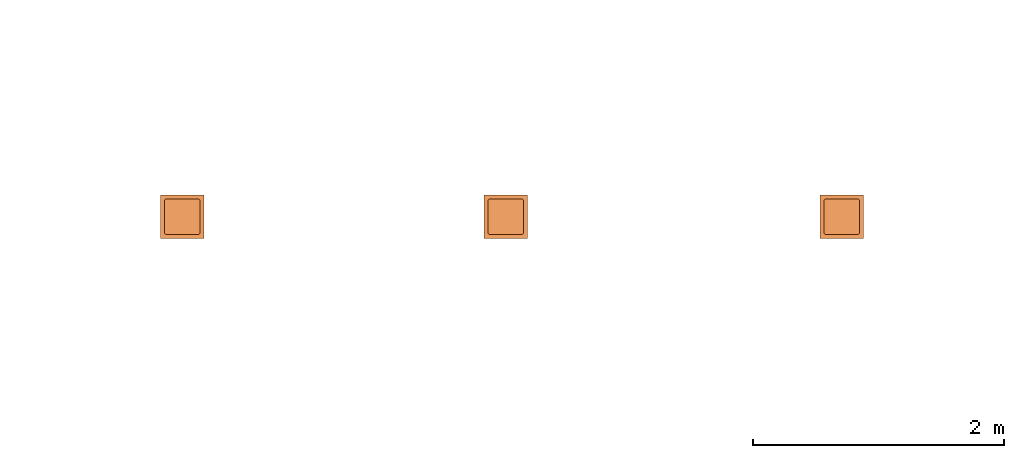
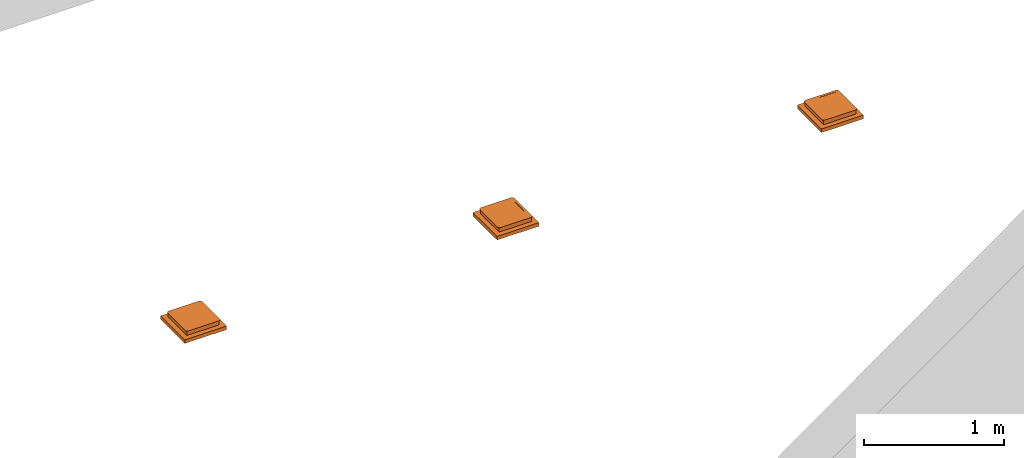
# One storey, part 71 of 197: 3 proxies.
"""IFC2X3 building model written with IfcOpenShell, lengths in metres."""

from ifc_helpers import new_model, entity, si_unit, converted_unit, direction, frame, frame_2d, origin, place, context, subcontext, project, spatial, polyline, circle_curve, parameter, trimmed, segment, composite_curve, rectangle, outline, extrude, source, transform, mapped, material, material_list, type_object, type_shapes, element, save


model = new_model("IFC2X3")

# Units and contexts
model_context = context("Model", 3, precision=1e-05, world=origin(), true_north=direction((6.123031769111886e-17, 1.0)))
body_context = subcontext(model_context, "Body", "Model", "MODEL_VIEW")
ifc_project = project(units=[si_unit("LENGTHUNIT", "METRE"), converted_unit("PLANEANGLEUNIT", "DEGREE", entity("IfcPlaneAngleMeasure", 0.017453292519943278), si_unit("PLANEANGLEUNIT", "RADIAN"), dimensions=[0, 0, 0, 0, 0, 0, 0]), si_unit("AREAUNIT", "SQUARE_METRE")], contexts=[model_context])

# Site, building, storey
site_placement = place(None, origin())
site = spatial("IfcSite", under=ifc_project, at=site_placement, Name="Default", CompositionType="ELEMENT")
building_placement = place(site_placement, origin())
building = spatial("IfcBuilding", under=site, at=building_placement, CompositionType="ELEMENT")
storey_placement = place(building_placement, origin())
storey = spatial("IfcBuildingStorey", under=building, at=storey_placement, Name="Niveau 0", CompositionType="ELEMENT", Elevation=0.0)

# Proxies
ifc_material_1 = material(Name="<Unnamed>")
ifc_material_2 = material(Name="Legrand - Inox")
ifc_material_list = material_list([ifc_material_1, ifc_material_2])
building_element_proxy_type_1 = type_object("IfcBuildingElementProxyType", Name="Boitier sol 3x4 modules:3PCN+3PCO+3RJ+1HDMI+1USB", PredefinedType="NOTDEFINED", material=ifc_material_list)
shared_shape_1 = source(origin(), body_context, "Body", "SweptSolid", [
    extrude(rectangle(XDim=0.34600000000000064, YDim=0.3460000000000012, at=frame_2d((0.0, 1.3877787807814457e-17), x_axis=(1.0, 0.0))), frame((0.0, 0.0, -0.07030000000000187), z_axis=(0.0, 0.0, 1.0), x_axis=(-1.0, 0.0, 0.0)), (0.0, 0.0, 1.0), 0.03150000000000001),
    extrude(rectangle(XDim=0.266000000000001, YDim=0.26600000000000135, at=frame_2d((1.3877787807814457e-17, 0.0), x_axis=(1.0, 0.0))), frame((0.0, 0.0, -0.03880000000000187), z_axis=(0.0, 0.0, 1.0), x_axis=(-1.0, 0.0, 0.0)), (0.0, 0.0, 1.0), 0.03880000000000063),
    extrude(outline(composite_curve([segment(polyline([(-0.12219999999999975, -0.143), (0.12220000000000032, -0.143)]), True, "CONTINUOUS"), segment(trimmed(circle_curve(frame_2d((0.12220000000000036, -0.12219999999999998), x_axis=(-1.0, 0.0)), 0.0208), [parameter(89.99999999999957)], [parameter(179.99999999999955)], True, "PARAMETER"), True, "CONTINUOUS"), segment(polyline([(0.14300000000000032, -0.1221999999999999), (0.14299999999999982, 0.12219999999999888)]), True, "CONTINUOUS"), segment(trimmed(circle_curve(frame_2d((0.12219999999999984, 0.12219999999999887), x_axis=(-1.0, 0.0)), 0.0208), [parameter(179.99999999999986)], [parameter(269.99999999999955)], True, "PARAMETER"), True, "CONTINUOUS"), segment(polyline([(0.12219999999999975, 0.14299999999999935), (-0.12220000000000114, 0.14300000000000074)]), True, "CONTINUOUS"), segment(trimmed(circle_curve(frame_2d((-0.12220000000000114, 0.12220000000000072), x_axis=(-1.0, 0.0)), 0.0208), [parameter(269.99999999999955)], [parameter(359.99999999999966)], True, "PARAMETER"), True, "CONTINUOUS"), segment(polyline([(-0.1429999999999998, 0.12220000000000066), (-0.14299999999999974, -0.12219999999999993)]), True, "CONTINUOUS"), segment(trimmed(circle_curve(frame_2d((-0.12219999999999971, -0.12219999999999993), x_axis=(-1.0, 0.0)), 0.0208), [parameter(359.99999999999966)], [parameter(89.99999999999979)], True, "PARAMETER"), True, "CONTINUOUS")], self_intersect=False), holes=[polyline([(-0.12199999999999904, -0.12200000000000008), (-0.12199999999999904, 0.08100000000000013), (0.12200000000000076, 0.08100000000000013), (0.12200000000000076, -0.12200000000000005), (-0.12199999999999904, -0.12200000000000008)])]), frame((0.0, 0.0, 0.0), z_axis=(0.0, 0.0, 1.0), x_axis=(-1.0, 0.0, 0.0)), (0.0, 0.0, 1.0), 0.004499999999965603),
    extrude(rectangle(XDim=0.24399999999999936, YDim=0.20300000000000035, at=frame_2d((-6.938893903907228e-18, 0.0), x_axis=(1.0, 0.0))), frame((0.0, 0.020499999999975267, 0.0), z_axis=(0.0, 0.0, 1.0), x_axis=(-1.0, 0.0, 0.0)), (0.0, 0.0, 1.0), 0.0040000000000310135),
])
type_shapes(building_element_proxy_type_1, [shared_shape_1])
proxy_1_placement = place(storey_placement, frame((-400.6434485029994, 93.55254659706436, 0.0)))
element("IfcBuildingElementProxy", 1, at=proxy_1_placement, inside=storey, type_object=building_element_proxy_type_1, material=ifc_material_list, Name="Boitier sol 3x4 modules:3PCN+3PCO+3RJ+1HDMI+1USB", ObjectType="Boitier sol 3x4 modules:3PCN+3PCO+3RJ+1HDMI+1USB", context=body_context, shape_type="MappedRepresentation", body=[
    mapped(shared_shape_1, transform((0.0, 0.0, 0.0), scale=1.0)),
])
building_element_proxy_type_2 = type_object("IfcBuildingElementProxyType", Name="Boitier sol 3x4 modules:3PCN+3PCO+3RJ+2HDMI", PredefinedType="NOTDEFINED", material=ifc_material_list)
shared_shape_2 = source(origin(), body_context, "Body", "SweptSolid", [
    extrude(rectangle(XDim=0.34600000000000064, YDim=0.3460000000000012, at=frame_2d((0.0, 1.3877787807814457e-17), x_axis=(1.0, 0.0))), frame((0.0, 0.0, -0.07030000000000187), z_axis=(0.0, 0.0, 1.0), x_axis=(-1.0, 0.0, 0.0)), (0.0, 0.0, 1.0), 0.03150000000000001),
    extrude(rectangle(XDim=0.266000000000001, YDim=0.26600000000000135, at=frame_2d((1.3877787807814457e-17, 0.0), x_axis=(1.0, 0.0))), frame((0.0, 0.0, -0.03880000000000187), z_axis=(0.0, 0.0, 1.0), x_axis=(-1.0, 0.0, 0.0)), (0.0, 0.0, 1.0), 0.03880000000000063),
    extrude(outline(composite_curve([segment(polyline([(-0.12219999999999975, -0.143), (0.12220000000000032, -0.143)]), True, "CONTINUOUS"), segment(trimmed(circle_curve(frame_2d((0.12220000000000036, -0.12219999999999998), x_axis=(-1.0, 0.0)), 0.0208), [parameter(89.99999999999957)], [parameter(179.99999999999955)], True, "PARAMETER"), True, "CONTINUOUS"), segment(polyline([(0.14300000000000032, -0.1221999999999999), (0.14299999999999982, 0.12219999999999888)]), True, "CONTINUOUS"), segment(trimmed(circle_curve(frame_2d((0.12219999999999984, 0.12219999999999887), x_axis=(-1.0, 0.0)), 0.0208), [parameter(179.99999999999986)], [parameter(269.99999999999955)], True, "PARAMETER"), True, "CONTINUOUS"), segment(polyline([(0.12219999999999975, 0.14299999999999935), (-0.12220000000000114, 0.14300000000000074)]), True, "CONTINUOUS"), segment(trimmed(circle_curve(frame_2d((-0.12220000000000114, 0.12220000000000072), x_axis=(-1.0, 0.0)), 0.0208), [parameter(269.99999999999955)], [parameter(359.99999999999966)], True, "PARAMETER"), True, "CONTINUOUS"), segment(polyline([(-0.1429999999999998, 0.12220000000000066), (-0.14299999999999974, -0.12219999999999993)]), True, "CONTINUOUS"), segment(trimmed(circle_curve(frame_2d((-0.12219999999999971, -0.12219999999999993), x_axis=(-1.0, 0.0)), 0.0208), [parameter(359.99999999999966)], [parameter(89.99999999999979)], True, "PARAMETER"), True, "CONTINUOUS")], self_intersect=False), holes=[polyline([(-0.12199999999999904, -0.12200000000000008), (-0.12199999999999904, 0.08100000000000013), (0.12200000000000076, 0.08100000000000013), (0.12200000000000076, -0.12200000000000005), (-0.12199999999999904, -0.12200000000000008)])]), frame((0.0, 0.0, 0.0), z_axis=(0.0, 0.0, 1.0), x_axis=(-1.0, 0.0, 0.0)), (0.0, 0.0, 1.0), 0.004499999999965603),
    extrude(rectangle(XDim=0.24399999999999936, YDim=0.20300000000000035, at=frame_2d((-6.938893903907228e-18, 0.0), x_axis=(1.0, 0.0))), frame((0.0, 0.020499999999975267, 0.0), z_axis=(0.0, 0.0, 1.0), x_axis=(-1.0, 0.0, 0.0)), (0.0, 0.0, 1.0), 0.0040000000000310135),
])
type_shapes(building_element_proxy_type_2, [shared_shape_2])
proxy_2_placement = place(storey_placement, frame((-398.06344850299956, 93.55254659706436, 0.0)))
element("IfcBuildingElementProxy", 2, at=proxy_2_placement, inside=storey, type_object=building_element_proxy_type_2, material=ifc_material_list, Name="Boitier sol 3x4 modules:3PCN+3PCO+3RJ+2HDMI", ObjectType="Boitier sol 3x4 modules:3PCN+3PCO+3RJ+2HDMI", context=body_context, shape_type="MappedRepresentation", body=[
    mapped(shared_shape_2, transform((0.0, 0.0, 0.0), scale=1.0)),
])
building_element_proxy_type_3 = type_object("IfcBuildingElementProxyType", Name="Boitier sol 3x4 modules:3PCN+3PCO+3RJ+2USB", PredefinedType="NOTDEFINED", material=ifc_material_list)
shared_shape_3 = source(origin(), body_context, "Body", "SweptSolid", [
    extrude(rectangle(XDim=0.34600000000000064, YDim=0.3460000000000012, at=frame_2d((0.0, 1.3877787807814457e-17), x_axis=(1.0, 0.0))), frame((0.0, 0.0, -0.07030000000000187), z_axis=(0.0, 0.0, 1.0), x_axis=(-1.0, 0.0, 0.0)), (0.0, 0.0, 1.0), 0.03150000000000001),
    extrude(rectangle(XDim=0.266000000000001, YDim=0.26600000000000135, at=frame_2d((1.3877787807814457e-17, 0.0), x_axis=(1.0, 0.0))), frame((0.0, 0.0, -0.03880000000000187), z_axis=(0.0, 0.0, 1.0), x_axis=(-1.0, 0.0, 0.0)), (0.0, 0.0, 1.0), 0.03880000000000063),
    extrude(outline(composite_curve([segment(polyline([(-0.12219999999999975, -0.143), (0.12220000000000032, -0.143)]), True, "CONTINUOUS"), segment(trimmed(circle_curve(frame_2d((0.12220000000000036, -0.12219999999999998), x_axis=(-1.0, 0.0)), 0.0208), [parameter(89.99999999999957)], [parameter(179.99999999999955)], True, "PARAMETER"), True, "CONTINUOUS"), segment(polyline([(0.14300000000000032, -0.1221999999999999), (0.14299999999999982, 0.12219999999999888)]), True, "CONTINUOUS"), segment(trimmed(circle_curve(frame_2d((0.12219999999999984, 0.12219999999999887), x_axis=(-1.0, 0.0)), 0.0208), [parameter(179.99999999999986)], [parameter(269.99999999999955)], True, "PARAMETER"), True, "CONTINUOUS"), segment(polyline([(0.12219999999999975, 0.14299999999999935), (-0.12220000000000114, 0.14300000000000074)]), True, "CONTINUOUS"), segment(trimmed(circle_curve(frame_2d((-0.12220000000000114, 0.12220000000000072), x_axis=(-1.0, 0.0)), 0.0208), [parameter(269.99999999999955)], [parameter(359.99999999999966)], True, "PARAMETER"), True, "CONTINUOUS"), segment(polyline([(-0.1429999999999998, 0.12220000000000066), (-0.14299999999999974, -0.12219999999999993)]), True, "CONTINUOUS"), segment(trimmed(circle_curve(frame_2d((-0.12219999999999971, -0.12219999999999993), x_axis=(-1.0, 0.0)), 0.0208), [parameter(359.99999999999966)], [parameter(89.99999999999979)], True, "PARAMETER"), True, "CONTINUOUS")], self_intersect=False), holes=[polyline([(-0.12199999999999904, -0.12200000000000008), (-0.12199999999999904, 0.08100000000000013), (0.12200000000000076, 0.08100000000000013), (0.12200000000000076, -0.12200000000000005), (-0.12199999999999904, -0.12200000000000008)])]), frame((0.0, 0.0, 0.0), z_axis=(0.0, 0.0, 1.0), x_axis=(-1.0, 0.0, 0.0)), (0.0, 0.0, 1.0), 0.004499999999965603),
    extrude(rectangle(XDim=0.24399999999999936, YDim=0.20300000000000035, at=frame_2d((-6.938893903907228e-18, 0.0), x_axis=(1.0, 0.0))), frame((0.0, 0.020499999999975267, 0.0), z_axis=(0.0, 0.0, 1.0), x_axis=(-1.0, 0.0, 0.0)), (0.0, 0.0, 1.0), 0.0040000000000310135),
])
type_shapes(building_element_proxy_type_3, [shared_shape_3])
proxy_3_placement = place(storey_placement, frame((-395.3834485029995, 93.55254659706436, 0.0)))
element("IfcBuildingElementProxy", 3, at=proxy_3_placement, inside=storey, type_object=building_element_proxy_type_3, material=ifc_material_list, Name="Boitier sol 3x4 modules:3PCN+3PCO+3RJ+2USB", ObjectType="Boitier sol 3x4 modules:3PCN+3PCO+3RJ+2USB", context=body_context, shape_type="MappedRepresentation", body=[
    mapped(shared_shape_3, transform((0.0, 0.0, 0.0), scale=1.0)),
])

save(model, "model.ifc")
